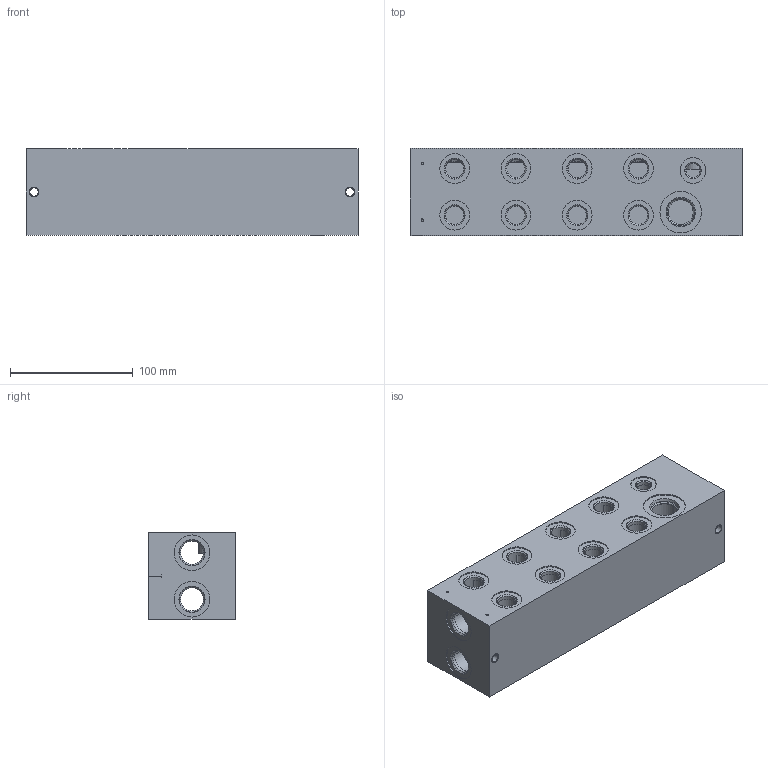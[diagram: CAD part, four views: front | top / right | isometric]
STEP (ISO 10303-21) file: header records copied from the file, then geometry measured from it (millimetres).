
FILE_DESCRIPTION((''),'2;1');
FILE_NAME('27564600','2015-11-27T',('Ahcz.brigadnik05'),(''),'PRO/ENGINEER BY PARAMETRIC TECHNOLOGY CORPORATION, 2015110','PRO/ENGINEER BY PARAMETRIC TECHNOLOGY CORPORATION, 2015110','');
FILE_SCHEMA(('AUTOMOTIVE_DESIGN { 1 0 10303 214 1 1 1 1 }'));
Length unit declared in the file: millimetre
Products named in the file (1): 27564600
Bounding box: 271 x 71 x 71 mm (x, y, z)
Volume: 449561 mm3; surface area: 175550.4 mm2
Topology: 1 solids, 38 shells, 335 faces, 1258 edges, 1211 vertices
Faces by surface type: cylinder 223, plane 68, cone 44
Entity records: 18590 total; most frequent: CARTESIAN_POINT 3695, DIRECTION 2385, ORIENTED_EDGE 1658, PRESENTATION_STYLE_ASSIGNMENT 1335, STYLED_ITEM 1335, CURVE_STYLE 1291, EDGE_CURVE 903, AXIS2_PLACEMENT_3D 861
